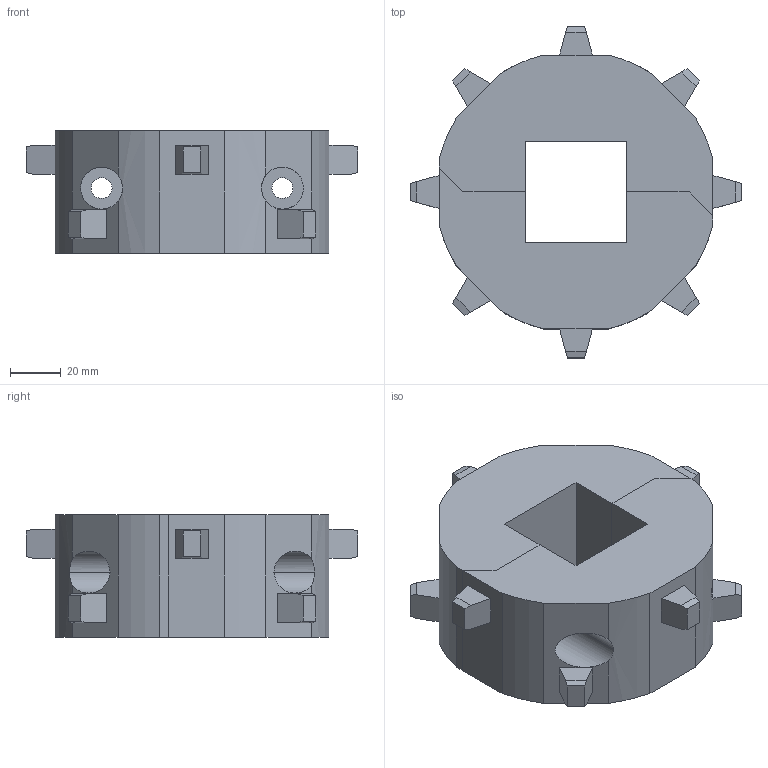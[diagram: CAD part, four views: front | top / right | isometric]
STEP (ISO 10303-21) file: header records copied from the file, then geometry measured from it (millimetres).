
FILE_DESCRIPTION((''),'2;1');
FILE_NAME('S4400_SPLIT_SPROCKET_53X15_SQ_ASM','2015-04-20T',('cmaheu'),('INTRALOX'),'PRO/ENGINEER BY PARAMETRIC TECHNOLOGY CORPORATION, 2009460','PRO/ENGINEER BY PARAMETRIC TECHNOLOGY CORPORATION, 2009460','');
FILE_SCHEMA(('CONFIG_CONTROL_DESIGN'));
Length unit declared in the file: inch
Products named in the file (3): S4400_SPLIT_SPROCKET_53X15__AF0; S4400_SPLIT_SPROCKET_53X15__AF1; S4400_SPLIT_SPROCKET_53X15_SQ_ASM
Assembly tree (2 placements, depth 2):
  S4400_SPLIT_SPROCKET_53X15_SQ_ASM
    S4400_SPLIT_SPROCKET_53X15__AF0
    S4400_SPLIT_SPROCKET_53X15__AF1
Bounding box: 130.55 x 130.55 x 48.26 mm (x, y, z)
Volume: 360673.5 mm3; surface area: 57177.2 mm2
Topology: 2 solids, 2 shells, 138 faces, 352 edges, 232 vertices
Faces by surface type: plane 94, cylinder 36, cone 8
Entity records: 4494 total; most frequent: CARTESIAN_POINT 999, ORIENTED_EDGE 704, DIRECTION 694, EDGE_CURVE 352, VECTOR 264, LINE 264, VERTEX_POINT 232, AXIS2_PLACEMENT_3D 215
